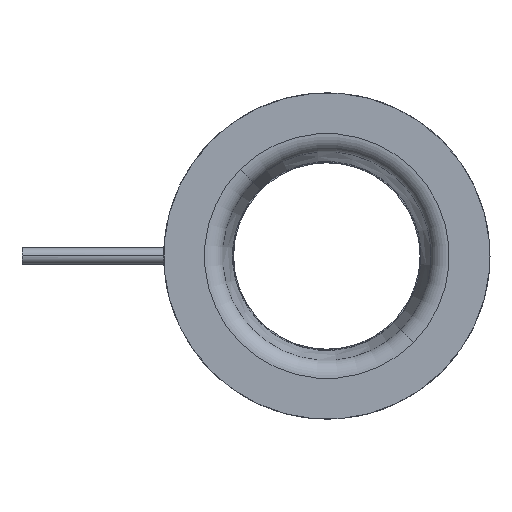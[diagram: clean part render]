
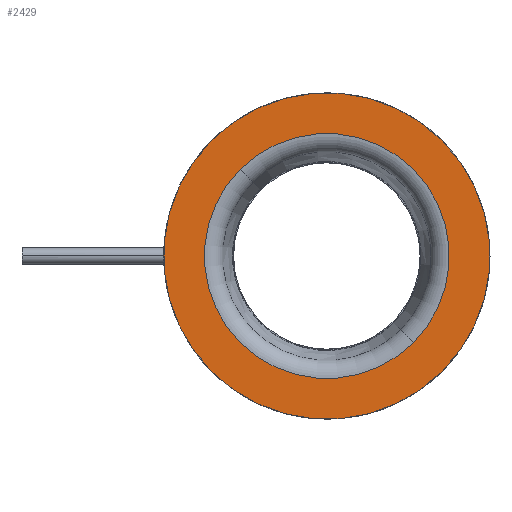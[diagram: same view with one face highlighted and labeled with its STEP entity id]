
A CAD part, front view. The second image highlights one B-rep face of the part: STEP entity #2429.
In plain terms, the highlighted planar face has unit normal (0, -1, 0).
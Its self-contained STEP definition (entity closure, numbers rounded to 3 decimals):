
#790=CARTESIAN_POINT('',(0.,3.5,0.));
#791=DIRECTION('',(0.,1.,0.));
#792=DIRECTION('',(-0.707,0.,0.707));
#793=AXIS2_PLACEMENT_3D('',#790,#791,#792);
#800=CARTESIAN_POINT('',(0.,3.5,0.));
#801=DIRECTION('',(0.,-1.,0.));
#802=DIRECTION('',(-0.707,0.,0.707));
#803=AXIS2_PLACEMENT_3D('',#800,#801,#802);
#805=CARTESIAN_POINT('',(0.,3.5,0.));
#806=DIRECTION('',(0.,-1.,0.));
#807=DIRECTION('',(-0.707,0.,0.707));
#808=AXIS2_PLACEMENT_3D('',#805,#806,#807);
#810=CARTESIAN_POINT('',(0.,3.5,0.));
#811=DIRECTION('',(0.,1.,0.));
#812=DIRECTION('',(-0.707,0.,0.707));
#813=AXIS2_PLACEMENT_3D('',#810,#811,#812);
#1128=CARTESIAN_POINT('',(-18.577,3.5,18.577));
#1130=VERTEX_POINT('',#1128);
#1148=CARTESIAN_POINT('',(18.577,3.5,-18.577));
#1150=VERTEX_POINT('',#1148);
#1158=CARTESIAN_POINT('',(-24.749,3.5,24.749));
#1159=CARTESIAN_POINT('',(24.749,3.5,-24.749));
#1160=VERTEX_POINT('',#1158);
#1161=VERTEX_POINT('',#1159);
#2415=CARTESIAN_POINT('',(0.,3.5,0.));
#2416=DIRECTION('',(0.,-1.,0.));
#2417=DIRECTION('',(-0.707,0.,0.707));
#2418=AXIS2_PLACEMENT_3D('',#2415,#2416,#2417);
#2419=PLANE('',#2418);
#2421=ORIENTED_EDGE('',*,*,#2420,.F.);
#2422=ORIENTED_EDGE('',*,*,#1673,.T.);
#2423=EDGE_LOOP('',(#2421,#2422));
#2424=FACE_OUTER_BOUND('',#2423,.F.);
#2425=ORIENTED_EDGE('',*,*,#2394,.F.);
#2426=ORIENTED_EDGE('',*,*,#2410,.T.);
#2427=EDGE_LOOP('',(#2425,#2426));
#2428=FACE_BOUND('',#2427,.F.);
#794=CIRCLE('',#793,26.272);
#804=CIRCLE('',#803,26.272);
#809=CIRCLE('',#808,35.);
#814=CIRCLE('',#813,35.);
#1673=EDGE_CURVE('',#1160,#1161,#814,.T.);
#2394=EDGE_CURVE('',#1130,#1150,#794,.T.);
#2410=EDGE_CURVE('',#1130,#1150,#804,.T.);
#2420=EDGE_CURVE('',#1160,#1161,#809,.T.);
#2429=ADVANCED_FACE('',(#2424,#2428),#2419,.T.);
